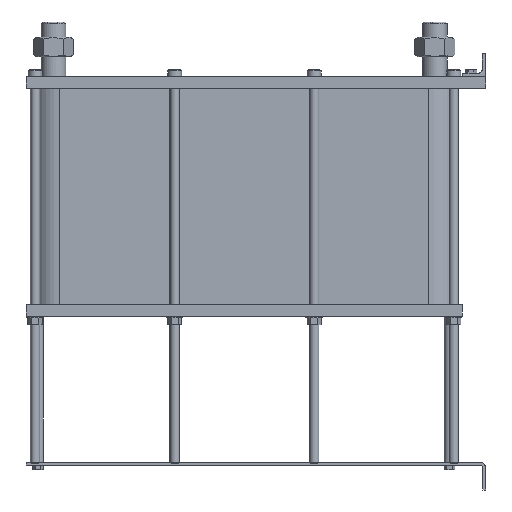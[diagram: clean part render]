
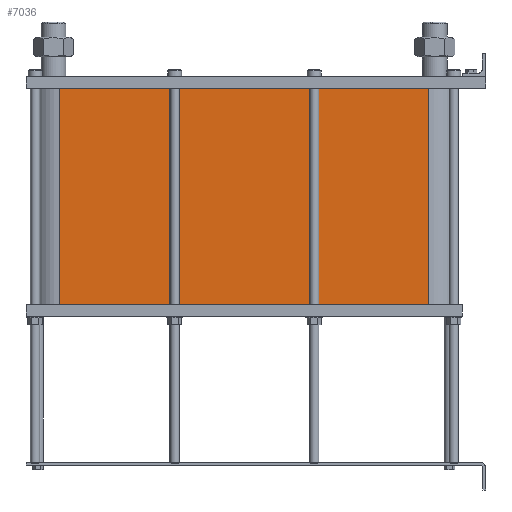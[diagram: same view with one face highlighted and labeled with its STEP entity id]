
A CAD part, left-side view. The second image highlights one B-rep face of the part: STEP entity #7036.
In plain terms, the highlighted planar face has unit normal (-1, 0, 0).
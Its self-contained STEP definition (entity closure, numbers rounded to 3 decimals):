
#999=LINE('',#15640,#1553);
#1031=LINE('',#15723,#1585);
#1032=LINE('',#15726,#1586);
#1033=LINE('',#15727,#1587);
#1553=VECTOR('',#9658,10.);
#1585=VECTOR('',#9736,10.);
#1586=VECTOR('',#9741,10.);
#1587=VECTOR('',#9742,10.);
#2117=FACE_OUTER_BOUND('',#2671,.T.);
#2671=EDGE_LOOP('',(#6246,#6247,#6248,#6249));
#3527=VERTEX_POINT('',#15634);
#3529=VERTEX_POINT('',#15638);
#3556=VERTEX_POINT('',#15720);
#3557=VERTEX_POINT('',#15722);
#4425=EDGE_CURVE('',#3529,#3527,#999,.T.);
#4466=EDGE_CURVE('',#3557,#3556,#1031,.T.);
#4468=EDGE_CURVE('',#3527,#3556,#1032,.T.);
#4469=EDGE_CURVE('',#3557,#3529,#1033,.T.);
#6246=ORIENTED_EDGE('',*,*,#4468,.F.);
#6247=ORIENTED_EDGE('',*,*,#4425,.F.);
#6248=ORIENTED_EDGE('',*,*,#4469,.F.);
#6249=ORIENTED_EDGE('',*,*,#4466,.T.);
#6608=PLANE('',#7812);
#7036=ADVANCED_FACE('',(#2117),#6608,.T.);
#7812=AXIS2_PLACEMENT_3D('',#15725,#9739,#9740);
#9658=DIRECTION('',(0.,0.,-1.));
#9736=DIRECTION('',(0.,0.,-1.));
#9739=DIRECTION('center_axis',(-1.,0.,0.));
#9740=DIRECTION('ref_axis',(0.,1.,0.));
#9741=DIRECTION('',(0.,1.,0.));
#9742=DIRECTION('',(0.,-1.,0.));
#15634=CARTESIAN_POINT('',(-72.,97.5,-372.));
#15638=CARTESIAN_POINT('',(-72.,97.5,0.));
#15640=CARTESIAN_POINT('',(-72.,97.5,0.));
#15720=CARTESIAN_POINT('',(-72.,733.5,-372.));
#15722=CARTESIAN_POINT('',(-72.,733.5,0.));
#15723=CARTESIAN_POINT('',(-72.,733.5,0.));
#15725=CARTESIAN_POINT('Origin',(-72.,97.5,0.));
#15726=CARTESIAN_POINT('',(-72.,256.5,-372.));
#15727=CARTESIAN_POINT('',(-72.,733.5,0.));
